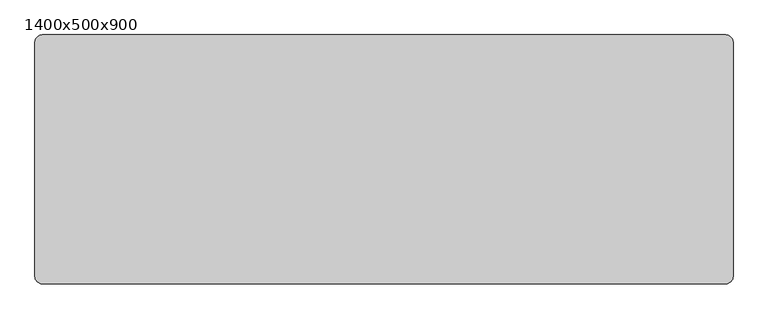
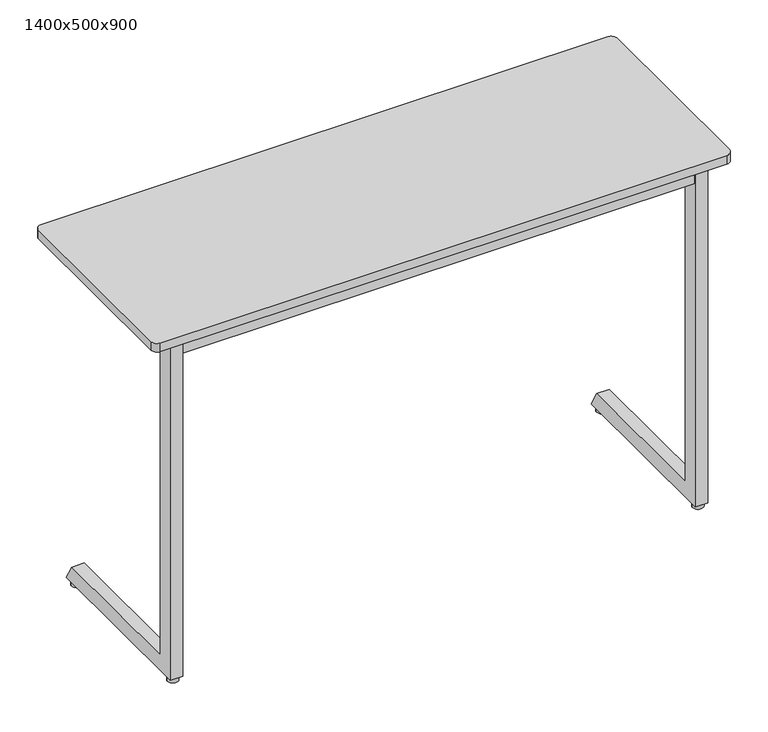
"""IFC4 building model written with IfcOpenShell, lengths in millimetres: furniture geometry, Trivia Light : 1400x500x900."""

from ifc_helpers import new_model, si_unit, point, frame, frame_2d, origin, origin_with_axes, place, context, project, spatial, polyline, circle_curve, trimmed, segment, composite_curve, outline, extrude, source, transform, mapped, element, save


def furniture_1400x500x900_2e003761(model_context):
    return source(origin(), model_context, "Body", "SweptSolid", [
        extrude(outline(polyline([(434.5100173, 878.0), (419.9996059, 846.4981092), (54.0, 846.4977978), (54.0, 878.0), (434.5100173, 878.0)])), frame((-564.7535601, 0.0, 0.0), z_axis=(1.0, 0.0, 0.0), x_axis=(0.0, 1.0, 0.0)), (0.0, 0.0, 1.0), 30.0),
        extrude(outline(polyline([(873.7997437, -567.7502136), (850.730957, -567.7502136), (850.730957, -599.8065042), (855.0394353, -611.6439509), (852.2203574, -612.6700113), (847.730957, -600.3354852), (847.730957, -564.7502136), (873.7997437, -564.7502136), (873.7997437, -567.7502136)])), frame((0.0, 215.0, 0.0), z_axis=(0.0, 1.0, 0.0), x_axis=(0.0, 0.0, 1.0)), (0.0, 0.0, 1.0), 30.0),
        extrude(outline(polyline([(873.7997437, 567.7535601), (873.7997437, 564.7535601), (847.730957, 564.7535601), (847.730957, 600.3388316), (852.2203574, 612.6733577), (855.0394353, 611.6472973), (850.730957, 599.8098507), (850.730957, 567.7535601), (873.7997437, 567.7535601)])), frame((0.0, 215.0, 0.0), z_axis=(0.0, 1.0, 0.0), x_axis=(0.0, 0.0, 1.0)), (0.0, 0.0, 1.0), 30.0),
        extrude(outline(composite_curve([segment(trimmed(circle_curve(frame_2d((-635.0, 35.0)), 13.0), [point((-648.0, 35.0))], [point((-622.0, 35.0))], False, "CARTESIAN"), True, "CONTINUOUS"), segment(trimmed(circle_curve(frame_2d((-635.0, 35.0)), 13.0), [point((-622.0, 35.0))], [point((-648.0, 35.0))], False, "CARTESIAN"), True, "CONTINUOUS")], self_intersect=False)), origin_with_axes(), (0.0, 0.0, 1.0), 13.0905762),
        extrude(outline(composite_curve([segment(trimmed(circle_curve(frame_2d((635.0, 35.0)), 13.0), [point((622.0, 35.0))], [point((648.0, 35.0))], False, "CARTESIAN"), True, "CONTINUOUS"), segment(trimmed(circle_curve(frame_2d((635.0, 35.0)), 13.0), [point((648.0, 35.0))], [point((622.0, 35.0))], False, "CARTESIAN"), True, "CONTINUOUS")], self_intersect=False)), origin_with_axes(), (0.0, 0.0, 1.0), 13.0905762),
        extrude(outline(composite_curve([segment(trimmed(circle_curve(frame_2d((635.0, 437.5)), 13.0), [point((622.0, 437.5))], [point((648.0, 437.5))], False, "CARTESIAN"), True, "CONTINUOUS"), segment(trimmed(circle_curve(frame_2d((635.0, 437.5)), 13.0), [point((648.0, 437.5))], [point((622.0, 437.5))], False, "CARTESIAN"), True, "CONTINUOUS")], self_intersect=False)), origin_with_axes(), (0.0, 0.0, 1.0), 13.0905762),
        extrude(outline(composite_curve([segment(trimmed(circle_curve(frame_2d((-635.0, 437.5)), 13.0), [point((-648.0, 437.5))], [point((-622.0, 437.5))], False, "CARTESIAN"), True, "CONTINUOUS"), segment(trimmed(circle_curve(frame_2d((-635.0, 437.5)), 13.0), [point((-622.0, 437.5))], [point((-648.0, 437.5))], False, "CARTESIAN"), True, "CONTINUOUS")], self_intersect=False)), origin_with_axes(), (0.0, 0.0, 1.0), 13.0905762),
        extrude(outline(polyline([(434.5100173, 878.0), (419.9996059, 846.4981092), (54.0, 846.4977978), (54.0, 878.0), (434.5100173, 878.0)])), frame((534.7535601, 0.0, 0.0), z_axis=(1.0, 0.0, 0.0), x_axis=(0.0, 1.0, 0.0)), (0.0, 0.0, 1.0), 30.0),
        extrude(outline(composite_curve([segment(trimmed(circle_curve(frame_2d((685.0, 485.0)), 15.0), [point((685.0, 500.0))], [point((700.0, 485.0))], False, "CARTESIAN"), True, "CONTINUOUS"), segment(polyline([(700.0, 485.0), (700.0, 15.0)]), True, "CONTINUOUS"), segment(trimmed(circle_curve(frame_2d((685.0, 15.0)), 15.0), [point((700.0, 15.0))], [point((685.0, 0.0))], False, "CARTESIAN"), True, "CONTINUOUS"), segment(polyline([(685.0, 0.0), (-685.0, 0.0)]), True, "CONTINUOUS"), segment(trimmed(circle_curve(frame_2d((-685.0, 15.0)), 15.0), [point((-685.0, 0.0))], [point((-700.0, 15.0))], False, "CARTESIAN"), True, "CONTINUOUS"), segment(polyline([(-700.0, 15.0), (-700.0, 485.0)]), True, "CONTINUOUS"), segment(trimmed(circle_curve(frame_2d((-685.0, 485.0)), 15.0), [point((-700.0, 485.0))], [point((-685.0, 500.0))], False, "CARTESIAN"), True, "CONTINUOUS"), segment(polyline([(-685.0, 500.0), (685.0, 500.0)]), True, "CONTINUOUS")], self_intersect=False)), frame((0.0, 0.0, 878.0), z_axis=(0.0, 0.0, 1.0), x_axis=(1.0, 0.0, 0.0)), (0.0, 0.0, 1.0), 22.0),
        extrude(outline(polyline([(619.7534307, 54.0), (619.7534307, 24.0), (-619.7534307, 24.0), (-619.7534307, 54.0), (619.7534307, 54.0)])), frame((0.0, 0.0, 836.0), z_axis=(0.0, 0.0, 1.0), x_axis=(1.0, 0.0, 0.0)), (0.0, 0.0, 1.0), 42.0),
        extrude(outline(polyline([(62.0, 51.5905762), (432.1448423, 51.5905762), (454.8944033, 11.5905762), (20.0, 11.5905762), (20.0, 878.0), (62.0, 878.0), (62.0, 51.5905762)])), frame((-649.7535601, 0.0, 0.0), z_axis=(1.0, 0.0, 0.0), x_axis=(0.0, 1.0, 0.0)), (0.0, 0.0, 1.0), 30.0001294),
        extrude(outline(polyline([(62.0, 51.5905762), (432.1448423, 51.5905762), (454.8944033, 11.5905762), (20.0, 11.5905762), (20.0, 878.0), (62.0, 878.0), (62.0, 51.5905762)])), frame((619.7534307, 0.0, 0.0), z_axis=(1.0, 0.0, 0.0), x_axis=(0.0, 1.0, 0.0)), (0.0, 0.0, 1.0), 30.0001294),
    ])


if __name__ == "__main__":
    model = new_model("IFC4")
    model_context = context("Model", 3, world=origin())
    ifc_project = project(units=[si_unit("LENGTHUNIT", "METRE", prefix="MILLI")], contexts=[model_context])
    site = spatial("IfcSite", under=ifc_project)
    building = spatial("IfcBuilding", under=site)
    placement = place(None, origin())
    furniture_1400x500x900_shape = furniture_1400x500x900_2e003761(model_context)
    element("IfcFurniture", 1, ObjectType="Trivia Light : 1400x500x900", at=placement, inside=building, context=model_context, shape_type="MappedRepresentation", body=[
        mapped(furniture_1400x500x900_shape, transform((0.0, 0.0, 0.0), x_axis=(1.0, 0.0, 0.0), y_axis=(0.0, 1.0, 0.0), z_axis=(0.0, 0.0, 1.0))),
    ])
    save(model, "model.ifc")
